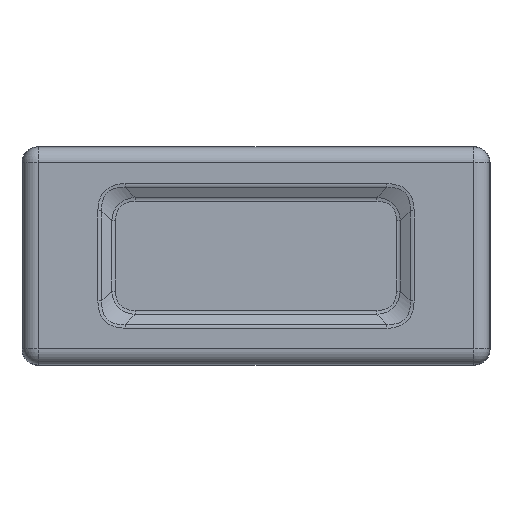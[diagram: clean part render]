
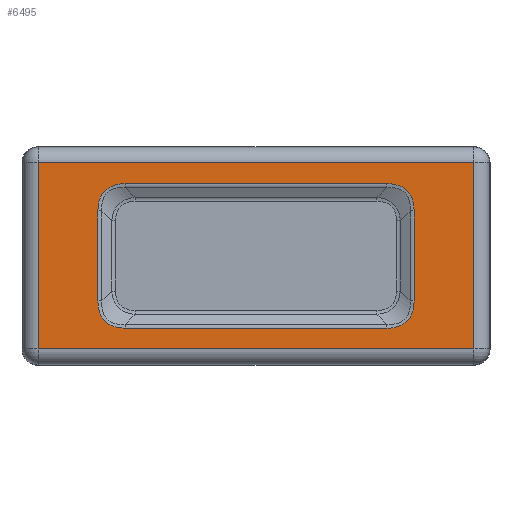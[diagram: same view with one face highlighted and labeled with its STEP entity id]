
A CAD part, top view. The second image highlights one B-rep face of the part: STEP entity #6495.
In plain terms, the highlighted planar face has unit normal (0, 0, 1).
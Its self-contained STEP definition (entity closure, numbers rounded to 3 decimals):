
#188 = VERTEX_POINT ( 'NONE', #6138 ) ;
#201 = LINE ( 'NONE', #6335, #443 ) ;
#267 = CARTESIAN_POINT ( 'NONE',  ( -10.134, 2.884, 3. ) ) ;
#410 = EDGE_CURVE ( 'NONE', #815, #4950, #1737, .T. ) ;
#443 = VECTOR ( 'NONE', #4006, 1000. ) ;
#476 = CARTESIAN_POINT ( 'NONE',  ( 0., 0., 3. ) ) ;
#535 = CARTESIAN_POINT ( 'NONE',  ( -8.384, -4.634, 3. ) ) ;
#815 = VERTEX_POINT ( 'NONE', #9336 ) ;
#906 = ORIENTED_EDGE ( 'NONE', *, *, #2855, .T. ) ;
#972 = CARTESIAN_POINT ( 'NONE',  ( 0., -4.634, 3. ) ) ;
#1081 = CARTESIAN_POINT ( 'NONE',  ( 8.384, -4.634, 3. ) ) ;
#1172 = VERTEX_POINT ( 'NONE', #8880 ) ;
#1203 =( BOUNDED_CURVE ( )  B_SPLINE_CURVE ( 3, ( #9700, #1284, #2733, #3501 ),
 .UNSPECIFIED., .F., .F. ) 
 B_SPLINE_CURVE_WITH_KNOTS ( ( 4, 4 ),
 ( 2.78, 3.503 ),
 .UNSPECIFIED. ) 
 CURVE ( )  GEOMETRIC_REPRESENTATION_ITEM ( )  RATIONAL_B_SPLINE_CURVE ( ( 1., 0.957, 0.957, 1. ) ) 
 REPRESENTATION_ITEM ( '' )  );
#1240 = CARTESIAN_POINT ( 'NONE',  ( -10.134, -4.024, 3. ) ) ;
#1272 = VECTOR ( 'NONE', #3635, 1000. ) ;
#1284 = CARTESIAN_POINT ( 'NONE',  ( 9.524, 4.634, 3. ) ) ;
#1527 = VERTEX_POINT ( 'NONE', #5866 ) ;
#1542 = CARTESIAN_POINT ( 'NONE',  ( 10.134, -4.024, 3. ) ) ;
#1619 = CARTESIAN_POINT ( 'NONE',  ( -10.134, 0., 3. ) ) ;
#1651 = LINE ( 'NONE', #5452, #2496 ) ;
#1706 = EDGE_CURVE ( 'NONE', #3833, #188, #2063, .T. ) ;
#1737 = LINE ( 'NONE', #6092, #2932 ) ;
#1796 = EDGE_LOOP ( 'NONE', ( #8740, #906, #9671, #5274, #5958, #2293, #5709, #7403 ) ) ;
#1939 =( BOUNDED_CURVE ( )  B_SPLINE_CURVE ( 3, ( #7803, #1542, #7864, #1081 ),
 .UNSPECIFIED., .F., .F. ) 
 B_SPLINE_CURVE_WITH_KNOTS ( ( 4, 4 ),
 ( 2.78, 3.503 ),
 .UNSPECIFIED. ) 
 CURVE ( )  GEOMETRIC_REPRESENTATION_ITEM ( )  RATIONAL_B_SPLINE_CURVE ( ( 1., 0.957, 0.957, 1. ) ) 
 REPRESENTATION_ITEM ( '' )  );
#1940 = VERTEX_POINT ( 'NONE', #5483 ) ;
#2020 = DIRECTION ( 'NONE',  ( 0., 0., -1. ) ) ;
#2063 =( BOUNDED_CURVE ( )  B_SPLINE_CURVE ( 3, ( #535, #2110, #1240, #5057 ),
 .UNSPECIFIED., .F., .F. ) 
 B_SPLINE_CURVE_WITH_KNOTS ( ( 4, 4 ),
 ( 2.78, 3.503 ),
 .UNSPECIFIED. ) 
 CURVE ( )  GEOMETRIC_REPRESENTATION_ITEM ( )  RATIONAL_B_SPLINE_CURVE ( ( 1., 0.957, 0.957, 1. ) ) 
 REPRESENTATION_ITEM ( '' )  );
#2084 = DIRECTION ( 'NONE',  ( -1., 0., 0. ) ) ;
#2110 = CARTESIAN_POINT ( 'NONE',  ( -9.524, -4.634, 3. ) ) ;
#2293 = ORIENTED_EDGE ( 'NONE', *, *, #1706, .T. ) ;
#2434 = VERTEX_POINT ( 'NONE', #5376 ) ;
#2477 = CARTESIAN_POINT ( 'NONE',  ( 13.965, 5.965, 3. ) ) ;
#2486 = CARTESIAN_POINT ( 'NONE',  ( -9.524, 4.634, 3. ) ) ;
#2496 = VECTOR ( 'NONE', #4742, 1000. ) ;
#2733 = CARTESIAN_POINT ( 'NONE',  ( 10.134, 4.024, 3. ) ) ;
#2855 = EDGE_CURVE ( 'NONE', #4049, #1527, #1203, .T. ) ;
#2875 = LINE ( 'NONE', #972, #4092 ) ;
#2932 = VECTOR ( 'NONE', #5523, 1000. ) ;
#2993 = LINE ( 'NONE', #3525, #7788 ) ;
#3104 = EDGE_LOOP ( 'NONE', ( #9558, #4165, #5739, #5417 ) ) ;
#3127 = CARTESIAN_POINT ( 'NONE',  ( 0., 5.965, 3. ) ) ;
#3418 = LINE ( 'NONE', #3127, #1272 ) ;
#3457 = PLANE ( 'NONE',  #5422 ) ;
#3501 = CARTESIAN_POINT ( 'NONE',  ( 10.134, 2.884, 3. ) ) ;
#3525 = CARTESIAN_POINT ( 'NONE',  ( 10.134, 0., 3. ) ) ;
#3635 = DIRECTION ( 'NONE',  ( -1., 0., 0. ) ) ;
#3702 = FACE_BOUND ( 'NONE', #1796, .T. ) ;
#3822 = LINE ( 'NONE', #7448, #5257 ) ;
#3833 = VERTEX_POINT ( 'NONE', #6429 ) ;
#4004 = EDGE_CURVE ( 'NONE', #1527, #9496, #2993, .T. ) ;
#4006 = DIRECTION ( 'NONE',  ( 0., -1., 0. ) ) ;
#4049 = VERTEX_POINT ( 'NONE', #5232 ) ;
#4061 = CARTESIAN_POINT ( 'NONE',  ( -8.384, 4.634, 3. ) ) ;
#4092 = VECTOR ( 'NONE', #6378, 1000. ) ;
#4165 = ORIENTED_EDGE ( 'NONE', *, *, #5304, .T. ) ;
#4350 = DIRECTION ( 'NONE',  ( 1., 0., 0. ) ) ;
#4742 = DIRECTION ( 'NONE',  ( 0., 1., 0. ) ) ;
#4791 = VERTEX_POINT ( 'NONE', #2477 ) ;
#4950 = VERTEX_POINT ( 'NONE', #6581 ) ;
#5057 = CARTESIAN_POINT ( 'NONE',  ( -10.134, -2.884, 3. ) ) ;
#5077 = EDGE_CURVE ( 'NONE', #1172, #4049, #3822, .T. ) ;
#5131 = DIRECTION ( 'NONE',  ( 0., -1., 0. ) ) ;
#5232 = CARTESIAN_POINT ( 'NONE',  ( 8.384, 4.634, 3. ) ) ;
#5257 = VECTOR ( 'NONE', #4350, 1000. ) ;
#5274 = ORIENTED_EDGE ( 'NONE', *, *, #5403, .T. ) ;
#5304 = EDGE_CURVE ( 'NONE', #4950, #4791, #1651, .T. ) ;
#5376 = CARTESIAN_POINT ( 'NONE',  ( 8.384, -4.634, 3. ) ) ;
#5403 = EDGE_CURVE ( 'NONE', #9496, #2434, #1939, .T. ) ;
#5416 = EDGE_CURVE ( 'NONE', #6948, #1172, #6349, .T. ) ;
#5417 = ORIENTED_EDGE ( 'NONE', *, *, #9929, .T. ) ;
#5422 = AXIS2_PLACEMENT_3D ( 'NONE', #476, #2020, #2084 ) ;
#5452 = CARTESIAN_POINT ( 'NONE',  ( 13.965, 0., 3. ) ) ;
#5483 = CARTESIAN_POINT ( 'NONE',  ( -13.965, 5.965, 3. ) ) ;
#5523 = DIRECTION ( 'NONE',  ( 1., 0., 0. ) ) ;
#5558 = CARTESIAN_POINT ( 'NONE',  ( -10.134, 2.884, 3. ) ) ;
#5709 = ORIENTED_EDGE ( 'NONE', *, *, #8497, .T. ) ;
#5739 = ORIENTED_EDGE ( 'NONE', *, *, #6200, .T. ) ;
#5816 = CARTESIAN_POINT ( 'NONE',  ( 10.134, -2.884, 3. ) ) ;
#5866 = CARTESIAN_POINT ( 'NONE',  ( 10.134, 2.884, 3. ) ) ;
#5958 = ORIENTED_EDGE ( 'NONE', *, *, #7865, .T. ) ;
#6092 = CARTESIAN_POINT ( 'NONE',  ( 0., -5.965, 3. ) ) ;
#6138 = CARTESIAN_POINT ( 'NONE',  ( -10.134, -2.884, 3. ) ) ;
#6200 = EDGE_CURVE ( 'NONE', #4791, #1940, #3418, .T. ) ;
#6335 = CARTESIAN_POINT ( 'NONE',  ( -13.965, 0., 3. ) ) ;
#6349 =( BOUNDED_CURVE ( )  B_SPLINE_CURVE ( 3, ( #5558, #6383, #2486, #4061 ),
 .UNSPECIFIED., .F., .F. ) 
 B_SPLINE_CURVE_WITH_KNOTS ( ( 4, 4 ),
 ( 2.78, 3.503 ),
 .UNSPECIFIED. ) 
 CURVE ( )  GEOMETRIC_REPRESENTATION_ITEM ( )  RATIONAL_B_SPLINE_CURVE ( ( 1., 0.957, 0.957, 1. ) ) 
 REPRESENTATION_ITEM ( '' )  );
#6378 = DIRECTION ( 'NONE',  ( -1., 0., 0. ) ) ;
#6383 = CARTESIAN_POINT ( 'NONE',  ( -10.134, 4.024, 3. ) ) ;
#6429 = CARTESIAN_POINT ( 'NONE',  ( -8.384, -4.634, 3. ) ) ;
#6495 = ADVANCED_FACE ( 'NONE', ( #6919, #3702 ), #3457, .F. ) ;
#6581 = CARTESIAN_POINT ( 'NONE',  ( 13.965, -5.965, 3. ) ) ;
#6919 = FACE_OUTER_BOUND ( 'NONE', #3104, .T. ) ;
#6948 = VERTEX_POINT ( 'NONE', #267 ) ;
#7403 = ORIENTED_EDGE ( 'NONE', *, *, #5416, .T. ) ;
#7448 = CARTESIAN_POINT ( 'NONE',  ( 0., 4.634, 3. ) ) ;
#7738 = DIRECTION ( 'NONE',  ( 0., 1., 0. ) ) ;
#7788 = VECTOR ( 'NONE', #5131, 1000. ) ;
#7803 = CARTESIAN_POINT ( 'NONE',  ( 10.134, -2.884, 3. ) ) ;
#7864 = CARTESIAN_POINT ( 'NONE',  ( 9.524, -4.634, 3. ) ) ;
#7865 = EDGE_CURVE ( 'NONE', #2434, #3833, #2875, .T. ) ;
#8269 = VECTOR ( 'NONE', #7738, 1000. ) ;
#8497 = EDGE_CURVE ( 'NONE', #188, #6948, #8747, .T. ) ;
#8740 = ORIENTED_EDGE ( 'NONE', *, *, #5077, .T. ) ;
#8747 = LINE ( 'NONE', #1619, #8269 ) ;
#8880 = CARTESIAN_POINT ( 'NONE',  ( -8.384, 4.634, 3. ) ) ;
#9336 = CARTESIAN_POINT ( 'NONE',  ( -13.965, -5.965, 3. ) ) ;
#9496 = VERTEX_POINT ( 'NONE', #5816 ) ;
#9558 = ORIENTED_EDGE ( 'NONE', *, *, #410, .T. ) ;
#9671 = ORIENTED_EDGE ( 'NONE', *, *, #4004, .T. ) ;
#9700 = CARTESIAN_POINT ( 'NONE',  ( 8.384, 4.634, 3. ) ) ;
#9929 = EDGE_CURVE ( 'NONE', #1940, #815, #201, .T. ) ;
